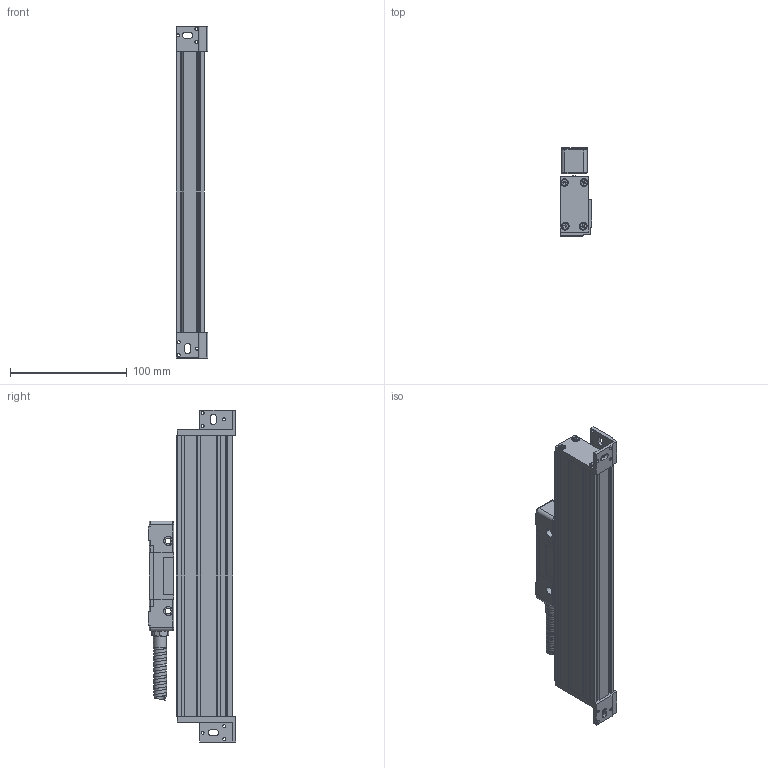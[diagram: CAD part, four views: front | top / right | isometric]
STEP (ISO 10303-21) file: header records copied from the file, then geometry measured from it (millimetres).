
FILE_DESCRIPTION (( 'STEP AP214' ), '1' );
FILE_NAME ('MLC310x0120.STEP', '2021-05-08T11:45:30', ( '' ), ( '' ), 'SwSTEP 2.0', 'SolidWorks 2014', '' );
FILE_SCHEMA (( 'AUTOMOTIVE_DESIGN' ));
Length unit declared in the file: millimetre
Products named in the file (1): MLC310x0120
Bounding box: 27 x 75.15 x 284 mm (x, y, z)
Surface area: 65125.5 mm2 (no closed solid volume)
Topology: 0 solids, 20 shells, 473 faces, 1500 edges, 1035 vertices
Faces by surface type: plane 186, cylinder 155, cone 83, bspline 39, torus 10
Entity records: 32439 total; most frequent: CARTESIAN_POINT 14391, DIRECTION 2605, ORIENTED_EDGE 2446, EDGE_CURVE 1492, VERTEX_POINT 1035, AXIS2_PLACEMENT_3D 903, LINE 799, VECTOR 799
